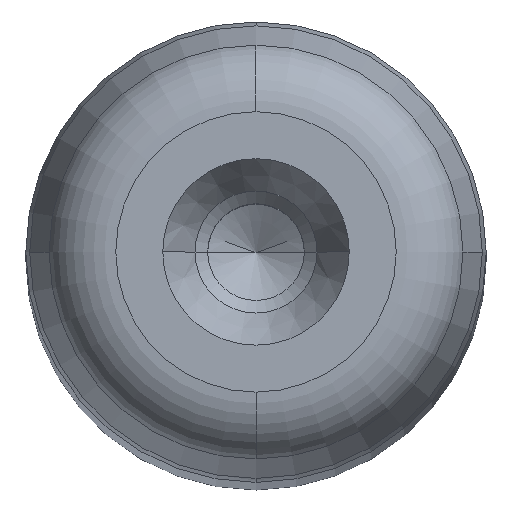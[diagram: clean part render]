
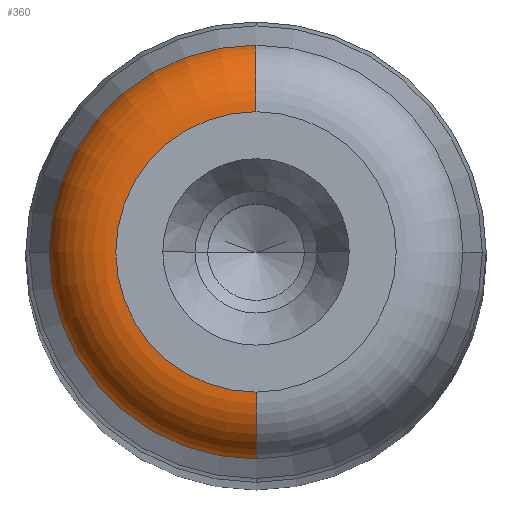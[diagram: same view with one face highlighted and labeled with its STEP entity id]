
A CAD part, top view. The second image highlights one B-rep face of the part: STEP entity #360.
In plain terms, the highlighted toroidal (fillet/blend) face has major radius 6.09 mm and minor radius 3 mm.
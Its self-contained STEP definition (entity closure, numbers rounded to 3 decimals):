
#308=CARTESIAN_POINT('',(0.0,197.0,0.0));
#309=DIRECTION('',(0.0,1.0,0.0));
#310=DIRECTION('',(0.0,0.0,1.0));
#311=AXIS2_PLACEMENT_3D('',#308,#309,#310);
#312=TOROIDAL_SURFACE('',#311,6.09,3.0);
#313=CARTESIAN_POINT('',(0.0,200.0,6.09));
#314=VERTEX_POINT('',#313);
#315=CARTESIAN_POINT('',(0.0,197.776,8.988));
#316=VERTEX_POINT('',#315);
#317=CARTESIAN_POINT('',(0.0,197.0,6.09));
#318=DIRECTION('',(1.0,0.0,0.0));
#319=DIRECTION('',(0.0,0.0,1.0));
#320=AXIS2_PLACEMENT_3D('',#317,#318,#319);
#321=CIRCLE('',#320,3.0);
#322=EDGE_CURVE('',#314,#316,#321,.T.);
#323=ORIENTED_EDGE('',*,*,#322,.F.);
#324=CARTESIAN_POINT('',(0.,200.0,-6.09));
#325=VERTEX_POINT('',#324);
#326=CARTESIAN_POINT('',(0.0,200.0,0.0));
#327=DIRECTION('',(0.0,1.0,0.0));
#328=DIRECTION('',(1.0,0.0,0.0));
#329=AXIS2_PLACEMENT_3D('',#326,#327,#328);
#330=CIRCLE('',#329,6.09);
#331=EDGE_CURVE('',#325,#314,#330,.T.);
#332=ORIENTED_EDGE('',*,*,#331,.F.);
#333=CARTESIAN_POINT('',(0.,197.776,-8.988));
#334=VERTEX_POINT('',#333);
#335=CARTESIAN_POINT('',(0.,197.0,-6.09));
#336=DIRECTION('',(-1.0,0.0,0.0));
#337=DIRECTION('',(0.0,0.0,-1.0));
#338=AXIS2_PLACEMENT_3D('',#335,#336,#337);
#339=CIRCLE('',#338,3.0);
#340=EDGE_CURVE('',#325,#334,#339,.T.);
#341=ORIENTED_EDGE('',*,*,#340,.T.);
#342=CARTESIAN_POINT('',(-8.988,197.776,0.));
#343=VERTEX_POINT('',#342);
#344=CARTESIAN_POINT('',(0.0,197.776,0.0));
#345=DIRECTION('',(0.0,1.0,0.0));
#346=DIRECTION('',(1.0,0.0,0.0));
#347=AXIS2_PLACEMENT_3D('',#344,#345,#346);
#348=CIRCLE('',#347,8.988);
#349=EDGE_CURVE('',#334,#343,#348,.T.);
#350=ORIENTED_EDGE('',*,*,#349,.T.);
#351=CARTESIAN_POINT('',(0.0,197.776,0.0));
#352=DIRECTION('',(0.0,1.0,0.0));
#353=DIRECTION('',(1.0,0.0,0.0));
#354=AXIS2_PLACEMENT_3D('',#351,#352,#353);
#355=CIRCLE('',#354,8.988);
#356=EDGE_CURVE('',#343,#316,#355,.T.);
#357=ORIENTED_EDGE('',*,*,#356,.T.);
#358=EDGE_LOOP('',(#323,#332,#341,#350,#357));
#359=FACE_OUTER_BOUND('',#358,.T.);
#360=ADVANCED_FACE('',(#359),#312,.T.);
